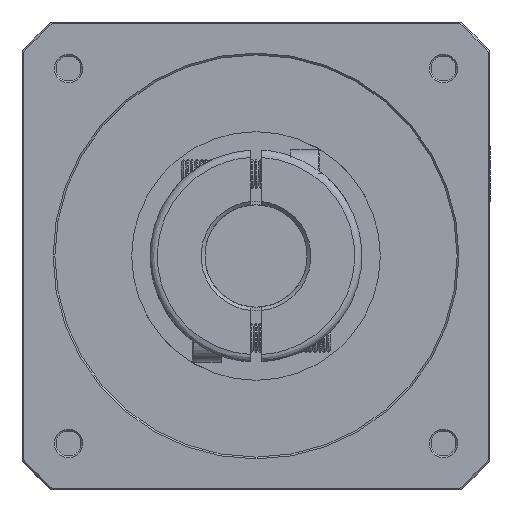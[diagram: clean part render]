
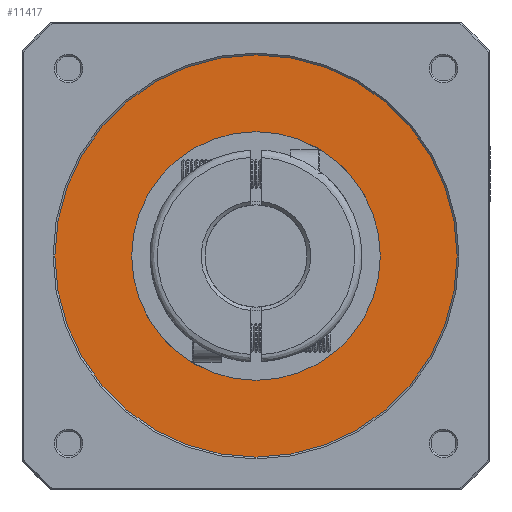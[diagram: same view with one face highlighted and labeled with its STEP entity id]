
A CAD part, front view. The second image highlights one B-rep face of the part: STEP entity #11417.
In plain terms, the highlighted planar face has unit normal (0, 1, 0).
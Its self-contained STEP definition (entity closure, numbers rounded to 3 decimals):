
#1183 = CIRCLE ( 'NONE', #33522, 55. ) ;
#1717 = CARTESIAN_POINT ( 'NONE',  ( -55.66, -140.611, -55.66 ) ) ;
#2635 = CARTESIAN_POINT ( 'NONE',  ( 0., -140.611, 0. ) ) ;
#9187 = PLANE ( 'NONE',  #28799 ) ;
#9500 = DIRECTION ( 'NONE',  ( 1., 0., 0. ) ) ;
#10413 = DIRECTION ( 'NONE',  ( 0., 0., -1. ) ) ;
#11417 = ADVANCED_FACE ( 'NONE', ( #21944, #99564 ), #9187, .F. ) ;
#13746 = DIRECTION ( 'NONE',  ( 0., -1., 0. ) ) ;
#19772 = ORIENTED_EDGE ( 'NONE', *, *, #52241, .T. ) ;
#19876 = CARTESIAN_POINT ( 'NONE',  ( 0., -140.611, -55. ) ) ;
#21944 = FACE_BOUND ( 'NONE', #67986, .T. ) ;
#24322 = DIRECTION ( 'NONE',  ( 0., -1., 0. ) ) ;
#28664 = ORIENTED_EDGE ( 'NONE', *, *, #31294, .T. ) ;
#28799 = AXIS2_PLACEMENT_3D ( 'NONE', #1717, #55883, #9500 ) ;
#29140 = ORIENTED_EDGE ( 'NONE', *, *, #35768, .T. ) ;
#29193 = CARTESIAN_POINT ( 'NONE',  ( 0., -140.611, 0. ) ) ;
#30825 = CARTESIAN_POINT ( 'NONE',  ( 0., -140.611, 34. ) ) ;
#31294 = EDGE_CURVE ( 'NONE', #38042, #53299, #1183, .T. ) ;
#33522 = AXIS2_PLACEMENT_3D ( 'NONE', #29193, #83480, #36950 ) ;
#34973 = AXIS2_PLACEMENT_3D ( 'NONE', #2635, #56781, #10413 ) ;
#35768 = EDGE_CURVE ( 'NONE', #60509, #42925, #61064, .T. ) ;
#36950 = DIRECTION ( 'NONE',  ( 0., 0., -1. ) ) ;
#37634 = AXIS2_PLACEMENT_3D ( 'NONE', #70830, #24322, #78643 ) ;
#38042 = VERTEX_POINT ( 'NONE', #93846 ) ;
#40026 = ORIENTED_EDGE ( 'NONE', *, *, #92758, .T. ) ;
#42925 = VERTEX_POINT ( 'NONE', #93902 ) ;
#50878 = CIRCLE ( 'NONE', #76317, 34. ) ;
#52241 = EDGE_CURVE ( 'NONE', #42925, #60509, #50878, .T. ) ;
#53299 = VERTEX_POINT ( 'NONE', #19876 ) ;
#55883 = DIRECTION ( 'NONE',  ( 0., -1., 0. ) ) ;
#56781 = DIRECTION ( 'NONE',  ( 0., 1., 0. ) ) ;
#60128 = CARTESIAN_POINT ( 'NONE',  ( 0., -140.611, 0. ) ) ;
#60509 = VERTEX_POINT ( 'NONE', #30825 ) ;
#61064 = CIRCLE ( 'NONE', #37634, 34. ) ;
#67972 = DIRECTION ( 'NONE',  ( 0., 0., 1. ) ) ;
#67986 = EDGE_LOOP ( 'NONE', ( #29140, #19772 ) ) ;
#70830 = CARTESIAN_POINT ( 'NONE',  ( 0., -140.611, 0. ) ) ;
#76317 = AXIS2_PLACEMENT_3D ( 'NONE', #60128, #13746, #67972 ) ;
#78601 = CIRCLE ( 'NONE', #34973, 55. ) ;
#78643 = DIRECTION ( 'NONE',  ( 0., 0., 1. ) ) ;
#83480 = DIRECTION ( 'NONE',  ( 0., 1., 0. ) ) ;
#92048 = EDGE_LOOP ( 'NONE', ( #40026, #28664 ) ) ;
#92758 = EDGE_CURVE ( 'NONE', #53299, #38042, #78601, .T. ) ;
#93846 = CARTESIAN_POINT ( 'NONE',  ( 0., -140.611, 55. ) ) ;
#93902 = CARTESIAN_POINT ( 'NONE',  ( 0., -140.611, -34. ) ) ;
#99564 = FACE_OUTER_BOUND ( 'NONE', #92048, .T. ) ;
